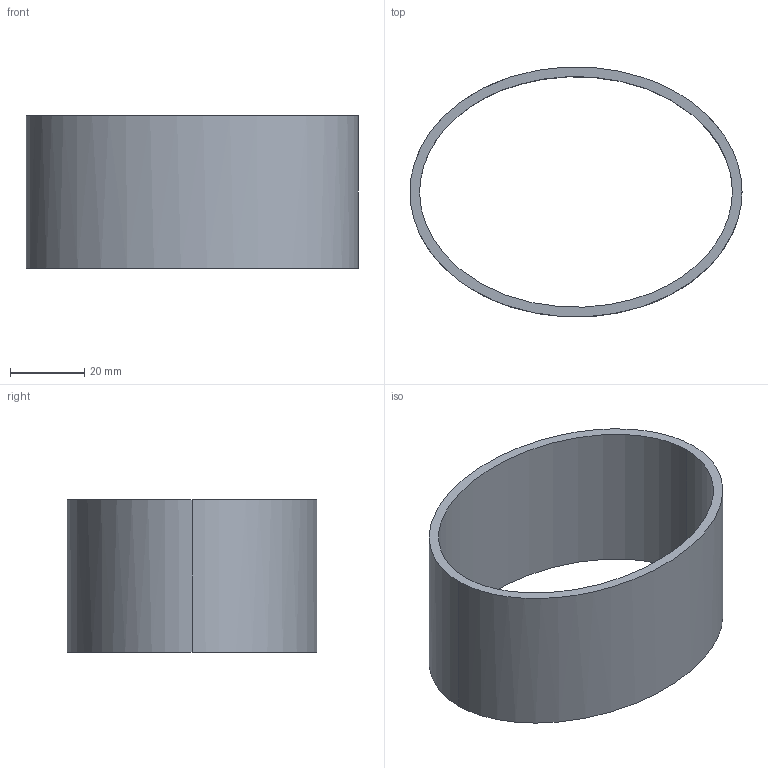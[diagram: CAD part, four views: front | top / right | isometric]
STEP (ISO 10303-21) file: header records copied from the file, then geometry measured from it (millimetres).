
FILE_DESCRIPTION(('Open CASCADE Model'),'2;1');
FILE_NAME('upper-arm-strap.step','2026-11-14T14:32:01',('Author'),( 'Open CASCADE'),'Open CASCADE STEP processor 8.0','Open CASCADE 8.0' ,'Unknown');
FILE_SCHEMA(('AP242_MANAGED_MODEL_BASED_3D_ENGINEERING_MIM_LF {1 0 10303 442 1 1 4 }' ));
Length unit declared in the file: millimetre
Products named in the file (1): Upper Arm Strap
Bounding box: 89.2 x 67.05 x 41 mm (x, y, z)
Volume: 25369.2 mm3; surface area: 20845.3 mm2
Topology: 1 solids, 1 shells, 6 faces, 12 edges, 8 vertices
Faces by surface type: bspline 4, plane 2
Entity records: 354 total; most frequent: CARTESIAN_POINT 159, ORIENTED_EDGE 24, PCURVE 24, DEFINITIONAL_REPRESENTATION 24, DIRECTION 18, EDGE_CURVE 12, SURFACE_CURVE 12, LINE 12
